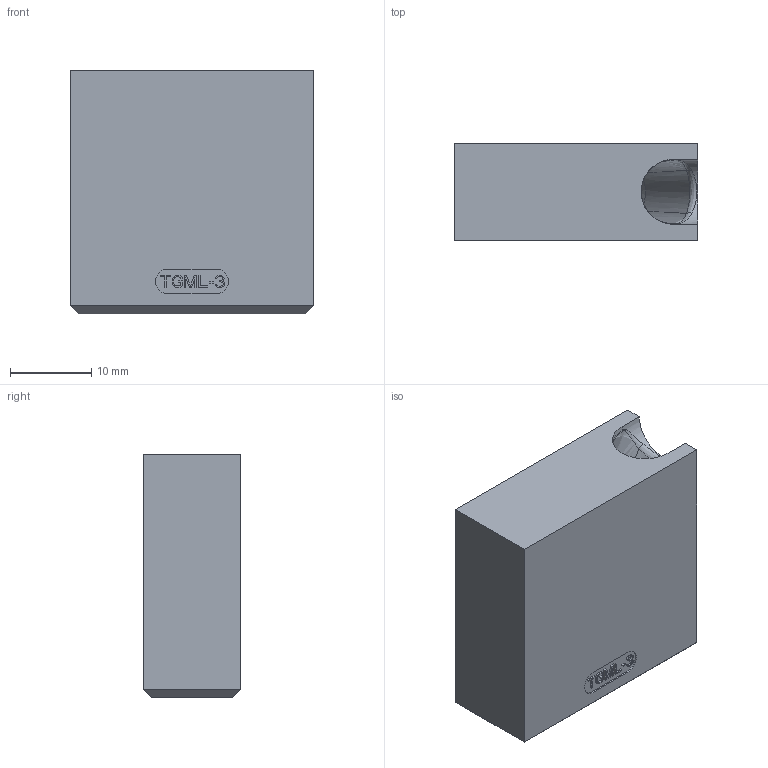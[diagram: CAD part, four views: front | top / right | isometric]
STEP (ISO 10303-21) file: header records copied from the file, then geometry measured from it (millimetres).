
FILE_DESCRIPTION((''),'2;1');
FILE_NAME('TGML3-GENERISCH','2018-10-08T',('gsawatzky'),(''),'CREO PARAMETRIC BY PTC INC, 2016260','CREO PARAMETRIC BY PTC INC, 2016260','');
FILE_SCHEMA(('AUTOMOTIVE_DESIGN { 1 0 10303 214 1 1 1 1 }'));
Length unit declared in the file: millimetre
Products named in the file (1): TGML3-GENERISCH
Bounding box: 30 x 12 x 30 mm (x, y, z)
Volume: 9341.9 mm3; surface area: 4278.3 mm2
Topology: 1 solids, 4 shells, 269 faces, 716 edges, 451 vertices
Faces by surface type: plane 173, bspline 70, cylinder 11, sphere 7, cone 4, extrusion 2, torus 2
Entity records: 14507 total; most frequent: CARTESIAN_POINT 6054, ORIENTED_EDGE 1398, DIRECTION 1052, PRESENTATION_STYLE_ASSIGNMENT 709, STYLED_ITEM 709, CURVE_STYLE 705, EDGE_CURVE 705, VECTOR 506
